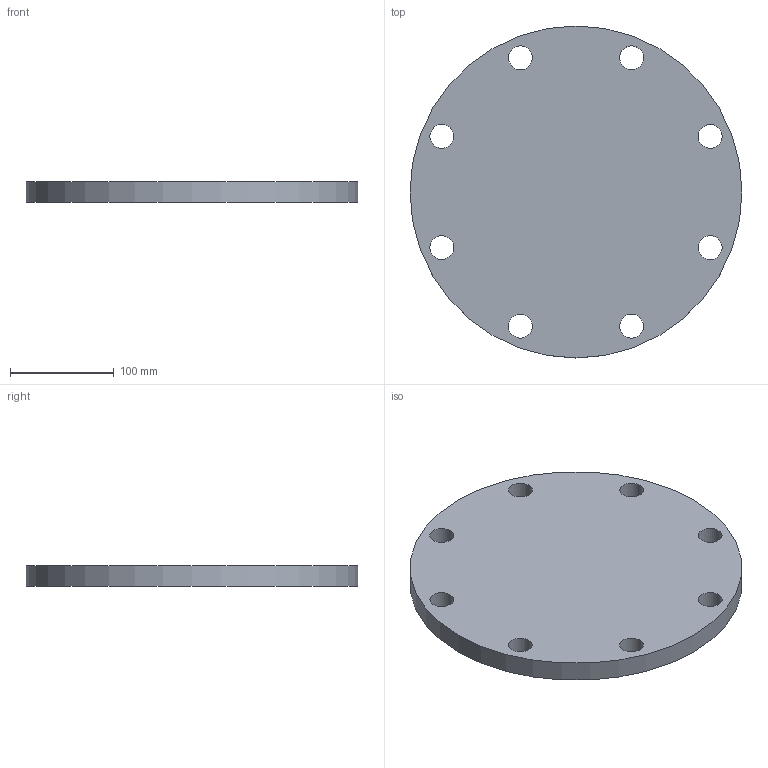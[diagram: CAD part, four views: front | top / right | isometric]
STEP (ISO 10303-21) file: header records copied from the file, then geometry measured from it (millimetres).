
FILE_DESCRIPTION(/* description */ (''),/* implementation_level */ '2;1');
FILE_NAME(/* name */ 'C:\Users\D\Documents\Inventor\HP\JIS\フランジ\JIS 5k bl ff\jis5k-bl-ff-200.stp',/* time_stamp */ '2024-09-12T16:49:31+09:00',/* author */ ('D'),/* organization */ (''),/* preprocessor_version */ 'ST-DEVELOPER v18',/* originating_system */ 'Autodesk Inventor 2020',/* authorisation */ '');
FILE_SCHEMA (('AUTOMOTIVE_DESIGN { 1 0 10303 214 3 1 1 }'));
Length unit declared in the file: millimetre
Products named in the file (1): jis5k-sop-rf-10
Bounding box: 320 x 320 x 20 mm (x, y, z)
Volume: 1542019.3 mm3; surface area: 185869.2 mm2
Topology: 1 solids, 1 shells, 11 faces, 37 edges, 28 vertices
Faces by surface type: cylinder 9, plane 2
Full cylindrical faces by diameter (mm): 23 x8, 320 x1
Entity records: 512 total; most frequent: DIRECTION 89, CARTESIAN_POINT 77, ORIENTED_EDGE 74, AXIS2_PLACEMENT_3D 40, EDGE_CURVE 37, CIRCLE 28, VERTEX_POINT 28, EDGE_LOOP 27
